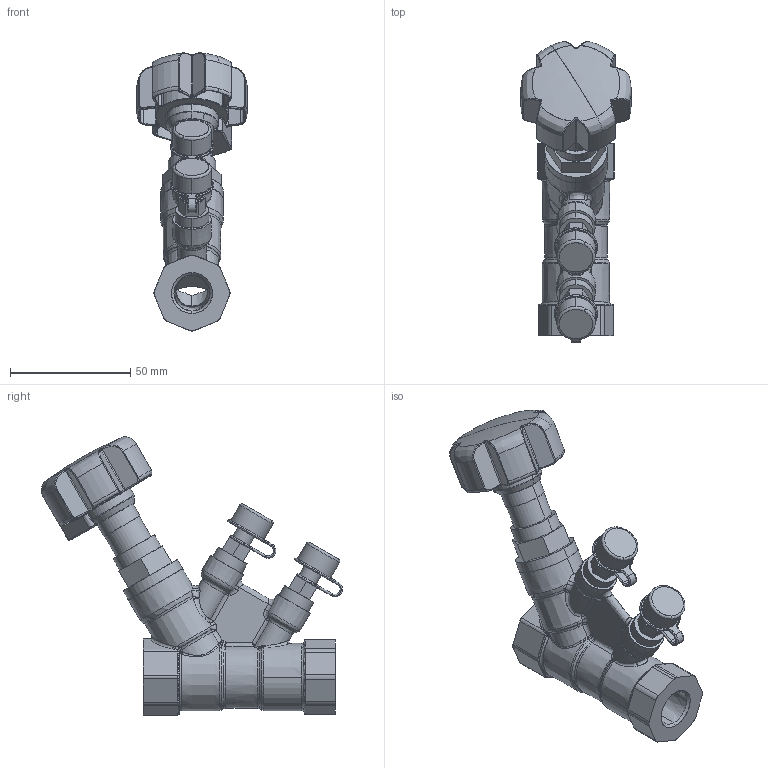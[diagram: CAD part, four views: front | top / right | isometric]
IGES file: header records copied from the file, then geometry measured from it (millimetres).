
Start section: SolidWorks IGES file using analytic representation for surfaces
Global section: file name: C:\Users\Administrator\Desktop\temp\0.IGS; native system: SolidWorks 2015; preprocessor: SolidWorks 2015; author: Administrator; date: 170404.132745; units: millimetre
Bounding box: 45.9 x 125.15 x 115.68 mm (x, y, z)
Surface area: 37533 mm2 (no closed solid volume)
Topology: 0 solids, 0 shells, 813 faces, 7029 edges, 6984 vertices
Faces by surface type: bspline 528, revolution 285
